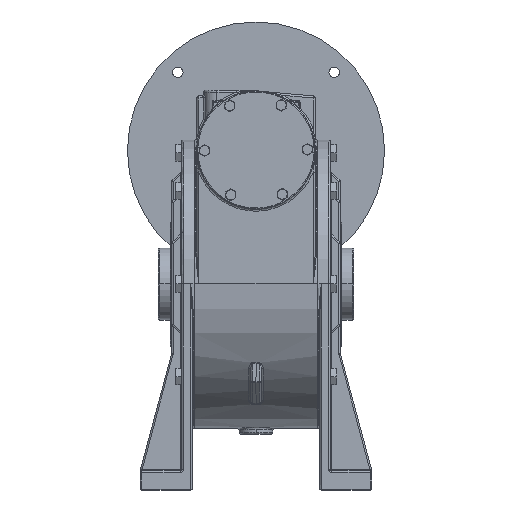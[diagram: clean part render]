
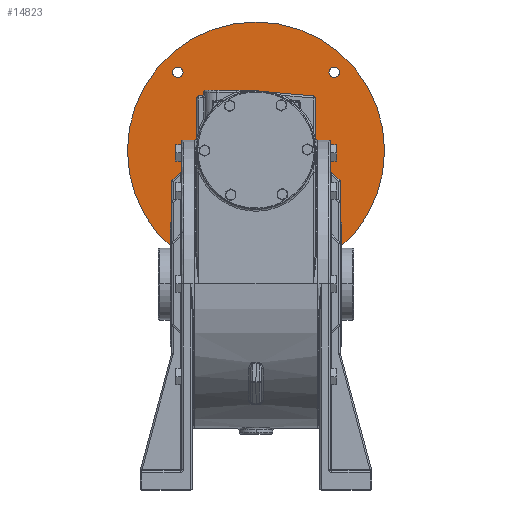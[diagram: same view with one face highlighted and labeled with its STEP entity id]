
A CAD part, top view. The second image highlights one B-rep face of the part: STEP entity #14823.
In plain terms, the highlighted planar face has unit normal (0, 0, 1).
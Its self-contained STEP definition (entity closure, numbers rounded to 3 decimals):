
#6883 = DIRECTION ( 'NONE',  ( -1., 0., 0. ) ) ;
#6885 = DIRECTION ( 'NONE',  ( 0., 0., 1. ) ) ;
#6886 = AXIS2_PLACEMENT_3D ( 'NONE', #6910, #6885, #6883 ) ;
#6888 = CIRCLE ( 'NONE', #6886, 57.5 ) ;
#6910 = CARTESIAN_POINT ( 'NONE',  ( 0., 0., -150.55 ) ) ;
#14357 = ORIENTED_EDGE ( 'NONE', *, *, #14358, .T. ) ;
#14358 = EDGE_CURVE ( 'NONE', #18679, #18653, #75473, .T. ) ;
#14510 = ORIENTED_EDGE ( 'NONE', *, *, #14721, .T. ) ;
#14518 = ORIENTED_EDGE ( 'NONE', *, *, #18723, .T. ) ;
#14521 = EDGE_LOOP ( 'NONE', ( #14522, #14510 ) ) ;
#14522 = ORIENTED_EDGE ( 'NONE', *, *, #18835, .T. ) ;
#14526 = ORIENTED_EDGE ( 'NONE', *, *, #14528, .T. ) ;
#14528 = EDGE_CURVE ( 'NONE', #18740, #18743, #77231, .T. ) ;
#14557 = EDGE_LOOP ( 'NONE', ( #14612, #14357 ) ) ;
#14612 = ORIENTED_EDGE ( 'NONE', *, *, #18652, .T. ) ;
#14675 = EDGE_LOOP ( 'NONE', ( #14676, #14677 ) ) ;
#14676 = ORIENTED_EDGE ( 'NONE', *, *, #51301, .F. ) ;
#14677 = ORIENTED_EDGE ( 'NONE', *, *, #31443, .F. ) ;
#14678 = EDGE_LOOP ( 'NONE', ( #14679, #14518 ) ) ;
#14679 = ORIENTED_EDGE ( 'NONE', *, *, #14681, .T. ) ;
#14681 = EDGE_CURVE ( 'NONE', #18725, #18724, #78101, .T. ) ;
#14721 = EDGE_CURVE ( 'NONE', #18833, #18836, #78616, .T. ) ;
#14738 = EDGE_LOOP ( 'NONE', ( #14744, #14526 ) ) ;
#14744 = ORIENTED_EDGE ( 'NONE', *, *, #18742, .T. ) ;
#14748 = EDGE_LOOP ( 'NONE', ( #14749, #14801 ) ) ;
#14749 = ORIENTED_EDGE ( 'NONE', *, *, #18716, .T. ) ;
#14801 = ORIENTED_EDGE ( 'NONE', *, *, #14802, .T. ) ;
#14802 = EDGE_CURVE ( 'NONE', #18714, #18717, #79327, .T. ) ;
#14823 = ADVANCED_FACE ( 'NONE', ( #79309, #79305, #79303, #79301, #79284, #79282 ), #79281, .T. ) ;
#18652 = EDGE_CURVE ( 'NONE', #18653, #18679, #73505, .T. ) ;
#18653 = VERTEX_POINT ( 'NONE', #73501 ) ;
#18679 = VERTEX_POINT ( 'NONE', #73743 ) ;
#18714 = VERTEX_POINT ( 'NONE', #73837 ) ;
#18716 = EDGE_CURVE ( 'NONE', #18717, #18714, #73834, .T. ) ;
#18717 = VERTEX_POINT ( 'NONE', #74156 ) ;
#18723 = EDGE_CURVE ( 'NONE', #18724, #18725, #74159, .T. ) ;
#18724 = VERTEX_POINT ( 'NONE', #74518 ) ;
#18725 = VERTEX_POINT ( 'NONE', #74517 ) ;
#18740 = VERTEX_POINT ( 'NONE', #74254 ) ;
#18742 = EDGE_CURVE ( 'NONE', #18743, #18740, #74249, .T. ) ;
#18743 = VERTEX_POINT ( 'NONE', #74088 ) ;
#18833 = VERTEX_POINT ( 'NONE', #74870 ) ;
#18835 = EDGE_CURVE ( 'NONE', #18836, #18833, #74868, .T. ) ;
#18836 = VERTEX_POINT ( 'NONE', #74859 ) ;
#31240 = VERTEX_POINT ( 'NONE', #95431 ) ;
#31242 = VERTEX_POINT ( 'NONE', #95428 ) ;
#31443 = EDGE_CURVE ( 'NONE', #31240, #31242, #96111, .T. ) ;
#51301 = EDGE_CURVE ( 'NONE', #31242, #31240, #6888, .T. ) ;
#73501 = CARTESIAN_POINT ( 'NONE',  ( 81.067, 76.014, -150.55 ) ) ;
#73502 = DIRECTION ( 'NONE',  ( 1., 0., 0. ) ) ;
#73503 = DIRECTION ( 'NONE',  ( 0., 0., -1. ) ) ;
#73504 = AXIS2_PLACEMENT_3D ( 'NONE', #73511, #73503, #73502 ) ;
#73505 = CIRCLE ( 'NONE', #73504, 5.053 ) ;
#73511 = CARTESIAN_POINT ( 'NONE',  ( 76.014, 76.014, -150.55 ) ) ;
#73743 = CARTESIAN_POINT ( 'NONE',  ( 70.961, 76.014, -150.55 ) ) ;
#73828 = DIRECTION ( 'NONE',  ( 1., 0., 0. ) ) ;
#73829 = DIRECTION ( 'NONE',  ( 0., 0., -1. ) ) ;
#73831 = CARTESIAN_POINT ( 'NONE',  ( 76.014, -76.014, -150.55 ) ) ;
#73832 = AXIS2_PLACEMENT_3D ( 'NONE', #73831, #73829, #73828 ) ;
#73834 = CIRCLE ( 'NONE', #73832, 5.053 ) ;
#73837 = CARTESIAN_POINT ( 'NONE',  ( 70.961, -76.014, -150.55 ) ) ;
#74088 = CARTESIAN_POINT ( 'NONE',  ( -70.961, 76.014, -150.55 ) ) ;
#74090 = DIRECTION ( 'NONE',  ( 1., 0., 0. ) ) ;
#74092 = DIRECTION ( 'NONE',  ( 0., 0., -1. ) ) ;
#74094 = CARTESIAN_POINT ( 'NONE',  ( -76.014, 76.014, -150.55 ) ) ;
#74095 = AXIS2_PLACEMENT_3D ( 'NONE', #74094, #74092, #74090 ) ;
#74156 = CARTESIAN_POINT ( 'NONE',  ( 81.067, -76.014, -150.55 ) ) ;
#74159 = CIRCLE ( 'NONE', #74458, 125. ) ;
#74163 = CARTESIAN_POINT ( 'NONE',  ( 0., 0., -150.55 ) ) ;
#74249 = CIRCLE ( 'NONE', #74095, 5.053 ) ;
#74254 = CARTESIAN_POINT ( 'NONE',  ( -81.067, 76.014, -150.55 ) ) ;
#74453 = DIRECTION ( 'NONE',  ( -1., 0., 0. ) ) ;
#74455 = DIRECTION ( 'NONE',  ( 0., 0., 1. ) ) ;
#74458 = AXIS2_PLACEMENT_3D ( 'NONE', #74163, #74455, #74453 ) ;
#74517 = CARTESIAN_POINT ( 'NONE',  ( -125., 0., -150.55 ) ) ;
#74518 = CARTESIAN_POINT ( 'NONE',  ( 125., 0., -150.55 ) ) ;
#74859 = CARTESIAN_POINT ( 'NONE',  ( -70.961, -76.014, -150.55 ) ) ;
#74861 = DIRECTION ( 'NONE',  ( 1., 0., 0. ) ) ;
#74863 = DIRECTION ( 'NONE',  ( 0., 0., -1. ) ) ;
#74865 = CARTESIAN_POINT ( 'NONE',  ( -76.014, -76.014, -150.55 ) ) ;
#74867 = AXIS2_PLACEMENT_3D ( 'NONE', #74865, #74863, #74861 ) ;
#74868 = CIRCLE ( 'NONE', #74867, 5.053 ) ;
#74870 = CARTESIAN_POINT ( 'NONE',  ( -81.067, -76.014, -150.55 ) ) ;
#75352 = DIRECTION ( 'NONE',  ( 1., 0., 0. ) ) ;
#75353 = DIRECTION ( 'NONE',  ( 0., 0., -1. ) ) ;
#75473 = CIRCLE ( 'NONE', #75483, 5.053 ) ;
#75481 = CARTESIAN_POINT ( 'NONE',  ( 76.014, 76.014, -150.55 ) ) ;
#75483 = AXIS2_PLACEMENT_3D ( 'NONE', #75481, #75353, #75352 ) ;
#77223 = DIRECTION ( 'NONE',  ( 1., 0., 0. ) ) ;
#77225 = DIRECTION ( 'NONE',  ( 0., 0., -1. ) ) ;
#77227 = CARTESIAN_POINT ( 'NONE',  ( -76.014, 76.014, -150.55 ) ) ;
#77229 = AXIS2_PLACEMENT_3D ( 'NONE', #77227, #77225, #77223 ) ;
#77231 = CIRCLE ( 'NONE', #77229, 5.053 ) ;
#77646 = DIRECTION ( 'NONE',  ( -1., 0., 0. ) ) ;
#77648 = DIRECTION ( 'NONE',  ( 0., 0., 1. ) ) ;
#77650 = CARTESIAN_POINT ( 'NONE',  ( 0., 0., -150.55 ) ) ;
#78099 = AXIS2_PLACEMENT_3D ( 'NONE', #77650, #77648, #77646 ) ;
#78101 = CIRCLE ( 'NONE', #78099, 125. ) ;
#78616 = CIRCLE ( 'NONE', #78672, 5.053 ) ;
#78667 = DIRECTION ( 'NONE',  ( 1., 0., 0. ) ) ;
#78670 = DIRECTION ( 'NONE',  ( 0., 0., -1. ) ) ;
#78671 = CARTESIAN_POINT ( 'NONE',  ( -76.014, -76.014, -150.55 ) ) ;
#78672 = AXIS2_PLACEMENT_3D ( 'NONE', #78671, #78670, #78667 ) ;
#79264 = DIRECTION ( 'NONE',  ( 0., -1., 0. ) ) ;
#79266 = DIRECTION ( 'NONE',  ( 0., 0., 1. ) ) ;
#79276 = CARTESIAN_POINT ( 'NONE',  ( -64.523, -64.523, -150.55 ) ) ;
#79280 = AXIS2_PLACEMENT_3D ( 'NONE', #79276, #79266, #79264 ) ;
#79281 = PLANE ( 'NONE',  #79280 ) ;
#79282 = FACE_BOUND ( 'NONE', #14557, .T. ) ;
#79284 = FACE_BOUND ( 'NONE', #14748, .T. ) ;
#79301 = FACE_BOUND ( 'NONE', #14738, .T. ) ;
#79303 = FACE_BOUND ( 'NONE', #14521, .T. ) ;
#79305 = FACE_OUTER_BOUND ( 'NONE', #14678, .T. ) ;
#79309 = FACE_BOUND ( 'NONE', #14675, .T. ) ;
#79320 = DIRECTION ( 'NONE',  ( 1., 0., 0. ) ) ;
#79322 = DIRECTION ( 'NONE',  ( 0., 0., -1. ) ) ;
#79324 = CARTESIAN_POINT ( 'NONE',  ( 76.014, -76.014, -150.55 ) ) ;
#79326 = AXIS2_PLACEMENT_3D ( 'NONE', #79324, #79322, #79320 ) ;
#79327 = CIRCLE ( 'NONE', #79326, 5.053 ) ;
#95428 = CARTESIAN_POINT ( 'NONE',  ( -57.5, 0., -150.55 ) ) ;
#95431 = CARTESIAN_POINT ( 'NONE',  ( 57.5, 0., -150.55 ) ) ;
#96104 = DIRECTION ( 'NONE',  ( -1., 0., 0. ) ) ;
#96106 = DIRECTION ( 'NONE',  ( 0., 0., 1. ) ) ;
#96108 = CARTESIAN_POINT ( 'NONE',  ( 0., 0., -150.55 ) ) ;
#96109 = AXIS2_PLACEMENT_3D ( 'NONE', #96108, #96106, #96104 ) ;
#96111 = CIRCLE ( 'NONE', #96109, 57.5 ) ;
